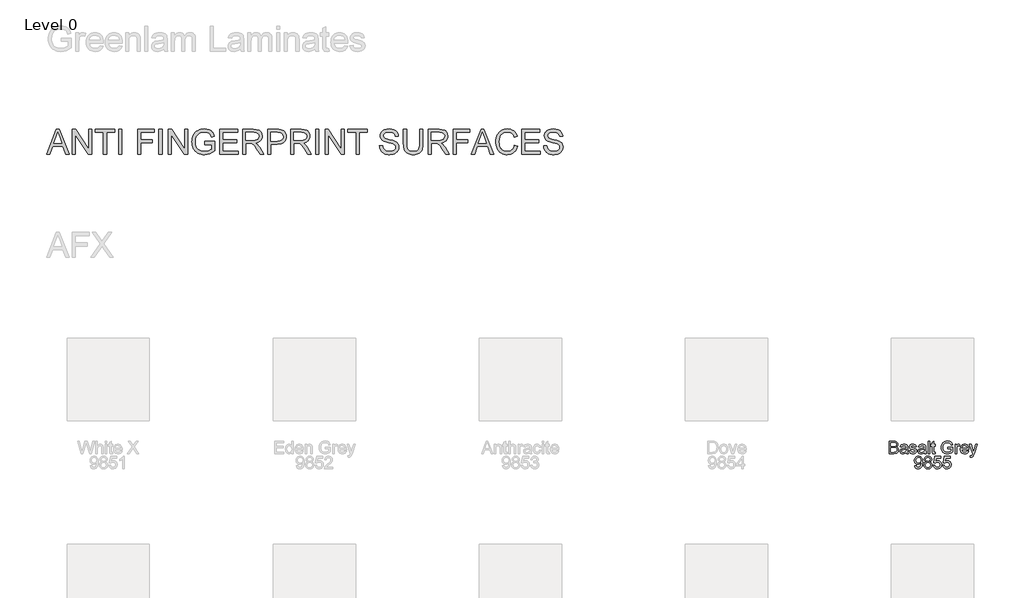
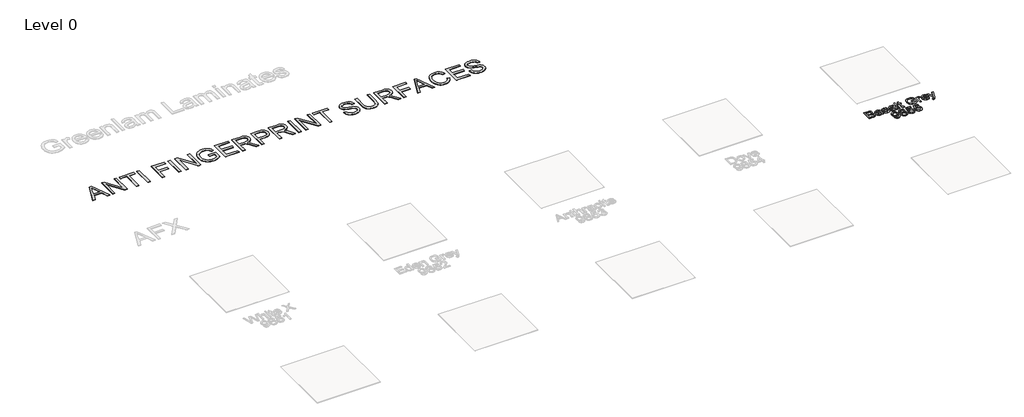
# One storey, part 7 of 8: 2 proxies.
"""IFC4 building model written with IfcOpenShell, lengths in millimetres."""

from ifc_helpers import new_model, si_unit, origin, origin_with_axes, place, context, project, spatial, polyline, outline, extrude, element, save

model = new_model("IFC4")

# Units and contexts
model_context = context("Model", 3, world=origin())
ifc_project = project(units=[si_unit("LENGTHUNIT", "METRE", prefix="MILLI")], contexts=[model_context])

# Site, building, storey
site = spatial("IfcSite", under=ifc_project)
building = spatial("IfcBuilding", under=site)
storey = spatial("IfcBuildingStorey", under=building, Name="Level 0", Elevation=0.0)

# Proxies
placement = place(None, origin())
element("IfcBuildingElementProxy", 1, Name="300mm Arial", ObjectType="300mm Arial", at=placement, inside=storey, context=model_context, shape_type="SweptSolid", body=[
    extrude(outline(polyline([(9492.1962424, -7002.860494), (9492.1962424, -6701.4915635), (9607.196154, -6701.4915635), (9638.8248086, -6703.7080526), (9663.5188875, -6710.3575196), (9682.4464162, -6721.6055116), (9696.7754199, -6737.6175755), (9705.7977258, -6756.4531336), (9708.8051611, -6776.1716086), (9706.2759724, -6794.317388), (9698.6884062, -6811.3779155), (9685.9872804, -6826.3047274), (9668.1174124, -6838.0493601), (9689.4637652, -6849.1961846), (9705.2367058, -6866.1555446), (9714.9763816, -6887.8054), (9718.2229402, -6913.0237108), (9716.0064512, -6934.0389697), (9709.3569841, -6953.5275184), (9699.4333673, -6970.1006023), (9687.394429, -6982.3694669), (9672.651558, -6991.253817), (9654.6161432, -6997.6733578), (9606.3132373, -7002.860494), (9492.1962424, -7002.860494)]), holes=[polyline([(9529.8673587, -6823.9226915), (9598.6612918, -6823.9226915), (9638.8340056, -6820.68533), (9652.8962949, -6815.1027207), (9663.0038527, -6806.7426024), (9669.1014968, -6795.7337336), (9671.1340448, -6782.2048733), (9669.2394525, -6769.071486), (9663.5556757, -6757.630356), (9654.3402317, -6748.7000206), (9641.850638, -6743.0990172), (9593.4373674, -6739.1626798), (9529.8673587, -6739.1626798), (9529.8673587, -6823.9226915)]), polyline([(9529.8673587, -6965.1893777), (9607.1225776, -6965.1893777), (9635.0816093, -6963.7178497), (9658.7364216, -6955.5140812), (9674.4081946, -6938.7754504), (9679.0159166, -6926.9480443), (9680.5518239, -6913.3915928), (9678.7492021, -6897.6462434), (9673.3413368, -6884.1081859), (9663.8959666, -6873.5223815), (9649.9808301, -6866.6337912), (9630.2715522, -6862.8538037), (9603.4437577, -6861.5938078), (9529.8673587, -6861.5938078), (9529.8673587, -6965.1893777)])]), origin_with_axes(), (0.0, 0.0, 1.0), 10.0),
    extrude(outline(polyline([(9906.5785217, -6974.6071568), (9888.5798951, -6990.0398064), (9870.0478396, -7000.1381672), (9850.5592909, -7005.7115794), (9829.6911847, -7007.5693835), (9798.209683, -7003.0996173), (9774.987132, -6989.6903186), (9760.6673254, -6969.3280501), (9755.8940565, -6943.9993748), (9757.6966783, -6928.3827841), (9763.1045436, -6914.2009331), (9771.4462678, -6902.0608273), (9782.0504664, -6892.5694718), (9808.4276054, -6880.2086368), (9841.0219502, -6874.5432541), (9879.5391951, -6868.5835657), (9906.3577925, -6861.5938078), (9906.5785217, -6853.2060983), (9903.9849537, -6836.3938912), (9896.2042495, -6825.3942195), (9878.8034311, -6817.2272392), (9854.5600076, -6814.5049125), (9832.1192059, -6816.3167313), (9816.4474329, -6821.7521878), (9805.7604609, -6831.8045633), (9798.2740623, -6847.4671392), (9760.602946, -6842.7582497), (9767.1420485, -6822.156858), (9776.9001184, -6805.9700502), (9790.7876637, -6793.590821), (9809.7151924, -6784.4121652), (9832.8641669, -6778.7283884), (9859.4160499, -6776.8337961), (9884.8826811, -6778.5076592), (9905.0702055, -6783.5292485), (9920.2913231, -6791.0800264), (9930.8587334, -6800.3414556), (9937.8668854, -6811.7917827), (9942.4102281, -6825.9092543), (9944.249638, -6858.8714811), (9944.249638, -6905.7396473), (9946.1626244, -6971.1858542), (9953.6674171, -7002.860494), (9915.9963008, -7002.860494), (9906.5785217, -6974.6071568)]), holes=[polyline([(9906.5785217, -6899.2649241), (9845.8044161, -6910.8164188), (9813.3940123, -6916.9232599), (9798.7155207, -6926.8560738), (9793.5651728, -6941.3506244), (9796.370273, -6952.5526311), (9804.7855737, -6961.7312869), (9818.6271337, -6967.8565221), (9837.7110122, -6969.8982672), (9857.944522, -6967.64499), (9875.8235869, -6960.8851583), (9890.3181375, -6950.9247533), (9900.3981042, -6939.069756), (9904.8678704, -6926.8560738), (9906.3577925, -6909.933502), (9906.5785217, -6899.2649241)])]), origin_with_axes(), (0.0, 0.0, 1.0), 10.0),
    extrude(outline(polyline([(9981.9207543, -6936.9360404), (10019.5918706, -6932.2271509), (10025.5331649, -6948.3403823), (10037.0294772, -6960.1861825), (10054.1543841, -6967.470246), (10076.9814619, -6969.8982672), (10099.5326282, -6967.6725811), (10115.3883422, -6960.9955229), (10124.7693331, -6951.3202265), (10127.89633, -6940.0998256), (10124.750939, -6930.4981055), (10115.3147658, -6923.1772538), (10076.5400035, -6912.4350996), (10019.8125998, -6894.0042116), (10005.456005, -6884.7427824), (9995.0541416, -6872.4831149), (9988.7357683, -6858.0069584), (9986.6296439, -6842.0960621), (9988.321901, -6827.5003439), (9993.3986726, -6814.0266659), (10001.400106, -6802.2084568), (10011.8663487, -6792.5791455), (10035.8154666, -6781.4323211), (10068.2258704, -6776.8337961), (10092.7452054, -6778.6824032), (10114.063967, -6784.2282242), (10131.207268, -6792.9286334), (10143.200221, -6804.2410048), (10151.1464721, -6819.0022698), (10156.1496672, -6838.0493601), (10118.4785509, -6842.7582497), (10113.7236762, -6830.9032524), (10104.3150941, -6821.972917), (10090.1608344, -6816.3719136), (10071.1689264, -6814.5049125), (10049.537465, -6816.2891401), (10035.1164908, -6821.6418232), (10027.0046928, -6829.3673451), (10024.3007602, -6838.2700893), (10028.7889205, -6849.2329728), (10042.8420127, -6857.5471059), (10075.2892047, -6865.5669334), (10130.5818686, -6883.2988455), (10145.1867838, -6891.7785255), (10156.2600318, -6903.3852025), (10163.2405927, -6918.1556646), (10165.5674463, -6936.1267001), (10162.8359225, -6954.7047408), (10154.6413511, -6972.1791356), (10141.2964317, -6987.1795239), (10123.1138641, -6998.3355454), (10101.151309, -7005.260924), (10076.4664271, -7007.5693835), (10038.4826111, -7003.1180114), (10010.7627028, -6989.763895), (9992.2582384, -6967.654187), (9981.9207543, -6936.9360404)])), origin_with_axes(), (0.0, 0.0, 1.0), 10.0),
    extrude(outline(polyline([(10349.2141383, -6974.6071568), (10331.2155117, -6990.0398064), (10312.6834562, -7000.1381672), (10293.1949075, -7005.7115794), (10272.3268013, -7007.5693835), (10240.8452996, -7003.0996173), (10217.6227486, -6989.6903186), (10203.302942, -6969.3280501), (10198.5296731, -6943.9993748), (10200.3322949, -6928.3827841), (10205.7401602, -6914.2009331), (10214.0818844, -6902.0608273), (10224.6860829, -6892.5694718), (10251.063222, -6880.2086368), (10283.6575668, -6874.5432541), (10322.1748117, -6868.5835657), (10348.9934091, -6861.5938078), (10349.2141383, -6853.2060983), (10346.6205703, -6836.3938912), (10338.8398661, -6825.3942195), (10321.4390477, -6817.2272392), (10297.1956242, -6814.5049125), (10274.7548225, -6816.3167313), (10259.0830495, -6821.7521878), (10248.3960775, -6831.8045633), (10240.9096789, -6847.4671392), (10203.2385626, -6842.7582497), (10209.7776651, -6822.156858), (10219.535735, -6805.9700502), (10233.4232803, -6793.590821), (10252.350809, -6784.4121652), (10275.4997835, -6778.7283884), (10302.0516665, -6776.8337961), (10327.5182977, -6778.5076592), (10347.7058221, -6783.5292485), (10362.9269397, -6791.0800264), (10373.49435, -6800.3414556), (10380.502502, -6811.7917827), (10385.0458446, -6825.9092543), (10386.8852546, -6858.8714811), (10386.8852546, -6905.7396473), (10388.798241, -6971.1858542), (10396.3030337, -7002.860494), (10358.6319174, -7002.860494), (10349.2141383, -6974.6071568)]), holes=[polyline([(10349.2141383, -6899.2649241), (10288.4400327, -6910.8164188), (10256.0296289, -6916.9232599), (10241.3511373, -6926.8560738), (10236.2007894, -6941.3506244), (10239.0058896, -6952.5526311), (10247.4211903, -6961.7312869), (10261.2627503, -6967.8565221), (10280.3466288, -6969.8982672), (10300.5801386, -6967.64499), (10318.4592035, -6960.8851583), (10332.9537541, -6950.9247533), (10343.0337208, -6939.069756), (10347.503487, -6926.8560738), (10348.9934091, -6909.933502), (10349.2141383, -6899.2649241)])]), origin_with_axes(), (0.0, 0.0, 1.0), 10.0),
    extrude(outline(polyline([(10438.6830395, -7002.860494), (10438.6830395, -6701.4915635), (10476.3541558, -6701.4915635), (10476.3541558, -7002.860494), (10438.6830395, -7002.860494)])), origin_with_axes(), (0.0, 0.0, 1.0), 10.0),
    extrude(outline(polyline([(10612.9119525, -6971.4433716), (10617.620842, -7003.96414), (10589.4410812, -7007.5693835), (10571.3596811, -7006.005885), (10557.876806, -7001.3153896), (10548.3486623, -6994.0865084), (10542.1314566, -6984.9078526), (10538.710154, -6969.1441091), (10537.5697198, -6942.1599648), (10537.5697198, -6819.213802), (10509.3163826, -6819.213802), (10509.3163826, -6781.5426857), (10537.5697198, -6781.5426857), (10537.5697198, -6727.758338), (10575.2408362, -6705.6118419), (10575.2408362, -6781.5426857), (10612.9119525, -6781.5426857), (10612.9119525, -6819.213802), (10575.2408362, -6819.213802), (10575.2408362, -6941.0563188), (10577.2273989, -6960.4804881), (10583.6653338, -6967.3598814), (10596.5044155, -6969.8982672), (10612.9119525, -6971.4433716)])), origin_with_axes(), (0.0, 0.0, 1.0), 10.0),
    extrude(outline(polyline([(10914.2808829, -6885.1382555), (10914.2808829, -6847.4671392), (11036.7120109, -6847.4671392), (11036.7120109, -6960.1126061), (11006.9595545, -6980.8059684), (10976.2689991, -6995.6500069), (10944.713921, -7004.5895394), (10912.3678965, -7007.5693835), (10870.1074523, -7002.8329028), (10831.9121042, -6988.6234608), (10800.1822821, -6965.437698), (10777.3184161, -6933.7722553), (10763.4952501, -6895.7884393), (10758.8875281, -6853.6475567), (10763.476856, -6811.2031715), (10777.2448397, -6771.7202364), (10799.6212621, -6738.6016598), (10830.035906, -6715.2503502), (10867.0816229, -6701.399593), (10909.3512642, -6696.782674), (10940.3821105, -6699.4590155), (10968.2859598, -6707.4880401), (10991.7844222, -6720.2903335), (11009.5991079, -6737.2864817), (11022.7784803, -6759.295022), (11032.3710034, -6787.134492), (10997.642943, -6796.9201531), (10989.88983, -6777.0637224), (10980.4628538, -6762.0817281), (10967.9916542, -6750.7877509), (10951.1058706, -6741.9953712), (10930.9735284, -6736.3391855), (10908.762653, -6734.4537903), (10882.762593, -6736.4863383), (10860.5333234, -6742.5839824), (10842.1576178, -6751.9833674), (10827.7182494, -6763.9211381), (10808.3308683, -6792.9470275), (10799.5017004, -6821.3843058), (10796.5586445, -6852.1024524), (10800.0995087, -6888.1272967), (10810.7221013, -6917.7693885), (10828.1045255, -6940.8171955), (10851.9248847, -6957.0591856), (10879.8011429, -6966.6884968), (10909.3512642, -6969.8982672), (10935.4432947, -6967.4794431), (10960.8915317, -6960.2229707), (10982.9920426, -6950.2257775), (10999.0408946, -6939.5847908), (10999.0408946, -6885.1382555), (10914.2808829, -6885.1382555)])), origin_with_axes(), (0.0, 0.0, 1.0), 10.0),
    extrude(outline(polyline([(11093.2186854, -7002.860494), (11093.2186854, -6781.5426857), (11126.1809121, -6781.5426857), (11126.1809121, -6814.2841833), (11138.3578062, -6795.3014723), (11149.578207, -6784.1178596), (11160.8353961, -6778.654812), (11173.1226547, -6776.8337961), (11191.8846365, -6779.7400639), (11210.9409238, -6788.4588672), (11198.3593596, -6822.2304343), (11185.1156078, -6816.4362929), (11171.8718559, -6814.5049125), (11160.6238639, -6816.3627165), (11150.5714884, -6821.9361288), (11142.4504934, -6830.8020848), (11136.9966428, -6842.5375205), (11132.4165119, -6863.5803706), (11130.8898017, -6886.5362071), (11130.8898017, -7002.860494), (11093.2186854, -7002.860494)])), origin_with_axes(), (0.0, 0.0, 1.0), 10.0),
    extrude(outline(polyline([(11389.4372679, -6936.9360404), (11426.3726202, -6941.64493), (11413.064489, -6969.4752029), (11391.8285008, -6990.2789297), (11363.1429023, -7003.2467701), (11327.4859399, -7007.5693835), (11304.1116376, -7005.7046817), (11283.2849182, -7000.1105761), (11265.0057815, -6990.7870668), (11249.2742277, -6977.7341537), (11236.6236856, -6961.3151204), (11227.5875841, -6941.8932503), (11222.1659232, -6919.4685435), (11220.3587029, -6894.0409998), (11222.1843173, -6867.7512327), (11227.6611605, -6844.5792656), (11236.7892325, -6824.5250983), (11249.5685333, -6807.5887309), (11265.2587004, -6794.133447), (11283.1193713, -6784.5225298), (11303.1505459, -6778.7559796), (11325.3522243, -6776.8337961), (11346.8388321, -6778.751381), (11366.2698992, -6784.5041357), (11383.6454257, -6794.0920602), (11398.9654116, -6807.5151545), (11411.4711001, -6824.4147337), (11420.4037348, -6844.4321128), (11425.7633156, -6867.5672917), (11427.5498426, -6893.8202706), (11427.3291134, -6903.9738137), (11258.0298192, -6903.9738137), (11264.5505276, -6932.1719686), (11279.6980687, -6952.902119), (11301.5594563, -6965.6492302), (11328.2217039, -6969.8982672), (11348.2712726, -6967.9300985), (11365.1570562, -6962.0255925), (11378.8790546, -6951.8168672), (11389.4372679, -6936.9360404)]), holes=[polyline([(11258.0298192, -6866.3026974), (11389.8787263, -6866.3026974), (11384.7835606, -6846.4002814), (11374.7955645, -6832.1632482), (11352.8330094, -6818.9194964), (11325.2050715, -6814.5049125), (11299.8120168, -6818.0273826), (11278.8151519, -6828.5947929), (11264.2194338, -6845.0667092), (11258.0298192, -6866.3026974)])]), origin_with_axes(), (0.0, 0.0, 1.0), 10.0),
    extrude(outline(polyline([(11465.2209589, -7087.6205057), (11460.5120693, -7051.3473409), (11479.6419331, -7054.6582789), (11497.5209981, -7050.5012124), (11508.4838815, -7038.9129295), (11518.7845774, -7011.1746271), (11521.7276333, -7002.0511536), (11441.6765112, -6781.5426857), (11481.4077667, -6781.5426857), (11523.8613489, -6904.4152721), (11538.6502051, -6953.5643066), (11553.4390613, -6910.1542312), (11597.069866, -6781.5426857), (11636.5068158, -6781.5426857), (11559.472326, -7008.1579947), (11539.4595455, -7057.3070293), (11529.2140319, -7072.9971964), (11517.607355, -7083.8681093), (11504.1244799, -7090.2140737), (11488.2503718, -7092.3293952), (11465.2209589, -7087.6205057)])), origin_with_axes(), (0.0, 0.0, 1.0), 10.0),
    extrude(outline(polyline([(10111.4152166, -7293.4427149), (10149.0863329, -7288.7338254), (10155.5242679, -7310.1169663), (10166.0089047, -7324.6758963), (10180.2827261, -7333.0360146), (10198.0882147, -7335.8227207), (10214.0634903, -7334.029296), (10228.5856321, -7328.6490218), (10240.6521615, -7320.2705094), (10249.2606002, -7309.4823699), (10261.5846471, -7276.7408723), (10267.0293006, -7233.0364913), (10266.8085714, -7225.6788514), (10253.7579576, -7241.6081418), (10236.679036, -7254.2264942), (10216.8042112, -7262.4486568), (10195.3658879, -7265.1893777), (10177.4707281, -7263.5155146), (10161.0149066, -7258.4939254), (10145.9984234, -7250.12461), (10132.4212786, -7238.4075684), (10121.1709873, -7223.9544045), (10113.135065, -7207.3767221), (10108.3135116, -7188.6745212), (10106.7063271, -7167.8478018), (10108.3916865, -7146.326705), (10113.4477647, -7127.0129003), (10121.8745616, -7109.9063875), (10133.6720773, -7095.0071667), (10148.0079788, -7082.9360387), (10164.0499331, -7074.3138045), (10181.7979401, -7069.1404639), (10201.2519999, -7067.4160171), (10229.3489872, -7071.3523544), (10254.925983, -7083.1613665), (10276.318321, -7102.254442), (10291.8613353, -7128.0429699), (10301.3250996, -7163.6907352), (10304.4796877, -7212.3615232), (10301.3342966, -7263.96617), (10291.8981235, -7303.8537754), (10276.2539416, -7333.8269609), (10254.4845246, -7355.6883485), (10227.5279714, -7369.0424649), (10196.3223811, -7373.4938371), (10164.1143124, -7368.2423216), (10138.4177551, -7352.4877751), (10120.4467196, -7327.2234791), (10111.4152166, -7293.4427149)]), holes=[polyline([(10266.8085714, -7166.964885), (10262.7434754, -7141.4338745), (10250.5481872, -7121.788976), (10231.6206586, -7109.262594), (10207.358841, -7105.0871334), (10182.1957125, -7109.5844908), (10162.0357792, -7123.0765629), (10148.7920273, -7143.7239399), (10144.3774434, -7169.6872117), (10148.552904, -7192.964945), (10161.079286, -7211.4418182), (10180.7425786, -7223.4991506), (10206.3287714, -7227.5182614), (10230.3974509, -7223.4991506), (10249.775635, -7211.4418182), (10262.5503373, -7192.2843633), (10266.8085714, -7166.964885)])]), origin_with_axes(), (0.0, 0.0, 1.0), 10.0),
    extrude(outline(polyline([(10392.3299082, -7202.7965913), (10372.1607778, -7192.8637774), (10358.006518, -7179.3992964), (10349.6463997, -7162.6790597), (10346.8596935, -7142.9789789), (10348.3772068, -7127.6153071), (10352.9297465, -7113.5300252), (10360.5173126, -7100.7231332), (10371.1399052, -7089.1946312), (10384.287088, -7079.6664875), (10399.4484248, -7072.8606706), (10435.81356, -7067.4160171), (10472.3994244, -7072.9894293), (10487.726308, -7079.9561946), (10501.0758259, -7089.709666), (10511.8915566, -7101.4634957), (10519.6170785, -7114.4313361), (10524.2523916, -7128.613187), (10525.797496, -7144.0090485), (10523.0475781, -7163.0745329), (10514.7978243, -7179.509661), (10500.9562643, -7192.8913686), (10481.4309274, -7202.7965913), (10504.6166901, -7214.7435591), (10521.4932767, -7232.3375155), (10531.7847755, -7254.732332), (10535.2152751, -7281.0818799), (10533.5138209, -7299.8714528), (10528.4094582, -7317.0975272), (10519.902187, -7332.7601031), (10507.9920074, -7346.8591806), (10493.3043188, -7358.5118428), (10476.4645204, -7366.8351729), (10457.4726124, -7371.829171), (10436.3285948, -7373.4938371), (10415.1845771, -7371.8222732), (10396.1926691, -7366.8075818), (10379.3528708, -7358.4497627), (10364.6651821, -7346.748816), (10352.7550025, -7332.5508703), (10344.2477314, -7316.702054), (10339.1433687, -7299.2023674), (10337.4419145, -7280.0518103), (10341.0103698, -7252.6813898), (10351.7157359, -7230.1670117), (10369.0061897, -7213.2812282), (10392.3299082, -7202.7965913)]), holes=[polyline([(10384.5308099, -7144.0826249), (10387.869339, -7160.52695), (10397.8849263, -7173.6603373), (10414.2832662, -7182.268776), (10436.7700532, -7185.1382555), (10458.7326083, -7182.2871701), (10474.8826279, -7173.7339137), (10484.8154417, -7161.0419848), (10488.1263797, -7145.774882), (10484.7050771, -7129.9283651), (10474.4411695, -7116.822569), (10458.0704207, -7108.0209923), (10436.3285948, -7105.0871334), (10414.4488131, -7107.9566129), (10398.1056555, -7116.5650516), (10387.9245213, -7129.1834041), (10384.5308099, -7144.0826249)]), polyline([(10375.1130308, -7278.7274351), (10381.4038129, -7307.0911369), (10390.1134191, -7319.2588339), (10403.6606736, -7328.317928), (10419.8842696, -7333.9465226), (10436.6229004, -7335.8227207), (10462.2642754, -7331.8771864), (10481.5045038, -7320.0405832), (10493.534245, -7302.1155329), (10497.5441588, -7279.9046575), (10493.4054863, -7257.316703), (10480.989469, -7238.9961796), (10461.3077822, -7226.8560738), (10435.3721016, -7222.8093718), (10410.0894115, -7226.8008915), (10391.0423212, -7238.7754504), (10379.0953534, -7256.7464859), (10375.1130308, -7278.7274351)])]), origin_with_axes(), (0.0, 0.0, 1.0), 10.0),
    extrude(outline(polyline([(10568.1775018, -7288.7338254), (10605.8486182, -7284.0249358), (10612.7647997, -7306.6404815), (10624.8313291, -7322.8364863), (10641.9930242, -7332.5761621), (10664.1947026, -7335.8227207), (10691.197241, -7331.3069693), (10711.4307508, -7317.7597148), (10724.0674973, -7296.7444558), (10728.2797461, -7269.8246908), (10724.3342117, -7244.4776213), (10712.4976086, -7225.0902402), (10692.6779661, -7212.7845875), (10664.7833138, -7208.6827032), (10646.5087757, -7210.3197781), (10631.7107224, -7215.2310027), (10610.5575077, -7232.2271509), (10572.8863914, -7227.5182614), (10605.8486182, -7072.1249066), (10751.8241938, -7072.1249066), (10751.8241938, -7109.7960229), (10636.3092474, -7109.7960229), (10620.196016, -7192.790201), (10647.1065839, -7176.4562404), (10675.3047388, -7171.0115869), (10693.6505541, -7172.6992456), (10710.5018487, -7177.7622215), (10725.8586228, -7186.2005148), (10739.7208762, -7198.0141254), (10751.1964952, -7212.4810848), (10759.3933659, -7228.8794248), (10764.3114883, -7247.2091452), (10765.9508625, -7267.470246), (10760.0463564, -7305.1413624), (10752.6657239, -7321.9351754), (10742.3328384, -7337.3678251), (10726.6794595, -7353.1729553), (10708.4141184, -7364.4623341), (10687.5368152, -7371.2359613), (10664.0475498, -7373.4938371), (10627.0478181, -7367.6904986), (10611.3691473, -7360.4363255), (10597.5712733, -7350.2804832), (10586.0910557, -7337.7288093), (10577.3653547, -7323.2871418), (10568.1775018, -7288.7338254)])), origin_with_axes(), (0.0, 0.0, 1.0), 10.0),
    extrude(outline(polyline([(10798.9130892, -7288.7338254), (10836.5842055, -7284.0249358), (10843.500387, -7306.6404815), (10855.5669165, -7322.8364863), (10872.7286116, -7332.5761621), (10894.93029, -7335.8227207), (10921.9328284, -7331.3069693), (10942.1663381, -7317.7597148), (10954.8030847, -7296.7444558), (10959.0153335, -7269.8246908), (10955.0697991, -7244.4776213), (10943.2331959, -7225.0902402), (10923.4135534, -7212.7845875), (10895.5189012, -7208.6827032), (10877.244363, -7210.3197781), (10862.4463098, -7215.2310027), (10841.2930951, -7232.2271509), (10803.6219788, -7227.5182614), (10836.5842055, -7072.1249066), (10982.5597812, -7072.1249066), (10982.5597812, -7109.7960229), (10867.0448347, -7109.7960229), (10850.9316033, -7192.790201), (10877.8421713, -7176.4562404), (10906.0403262, -7171.0115869), (10924.3861415, -7172.6992456), (10941.2374361, -7177.7622215), (10956.5942101, -7186.2005148), (10970.4564636, -7198.0141254), (10981.9320826, -7212.4810848), (10990.1289533, -7228.8794248), (10995.0470757, -7247.2091452), (10996.6864498, -7267.470246), (10990.7819438, -7305.1413624), (10983.4013113, -7321.9351754), (10973.0684257, -7337.3678251), (10957.4150468, -7353.1729553), (10939.1497058, -7364.4623341), (10918.2724026, -7371.2359613), (10894.7831372, -7373.4938371), (10857.7834055, -7367.6904986), (10842.1047347, -7360.4363255), (10828.3068606, -7350.2804832), (10816.8266431, -7337.7288093), (10808.1009421, -7323.2871418), (10798.9130892, -7288.7338254)])), origin_with_axes(), (0.0, 0.0, 1.0), 10.0),
])
element("IfcBuildingElementProxy", 2, Name="600mm Arial", ObjectType="600mm Arial", at=placement, inside=storey, context=model_context, shape_type="SweptSolid", body=[
    extrude(outline(polyline([(-10947.6550699, 260.1279527), (-10707.0602451, 862.8658136), (-10642.9016251, 862.8658136), (-10402.3068003, 260.1279527), (-10481.916464, 260.1279527), (-10550.9311263, 448.4835342), (-10799.1778967, 448.4835342), (-10868.0454062, 260.1279527), (-10947.6550699, 260.1279527)]), holes=[polyline([(-10771.5131706, 523.8257668), (-10578.4486996, 523.8257668), (-10632.748082, 672.0086345), (-10674.9809351, 787.523581), (-10712.5048986, 684.9580807), (-10771.5131706, 523.8257668)])]), origin_with_axes(), (0.0, 0.0, 1.0), 10.0),
    extrude(outline(polyline([(-10321.8142197, 260.1279527), (-10321.8142197, 862.8658136), (-10241.1744864, 862.8658136), (-9926.2674985, 385.3549838), (-9926.2674985, 862.8658136), (-9850.9252659, 862.8658136), (-9850.9252659, 260.1279527), (-9931.5649992, 260.1279527), (-10246.4719871, 737.7859352), (-10246.4719871, 260.1279527), (-10321.8142197, 260.1279527)])), origin_with_axes(), (0.0, 0.0, 1.0), 10.0),
    extrude(outline(polyline([(-9568.3918936, 260.1279527), (-9568.3918936, 787.523581), (-9766.1652542, 787.523581), (-9766.1652542, 862.8658136), (-9295.2763004, 862.8658136), (-9295.2763004, 787.523581), (-9493.049661, 787.523581), (-9493.049661, 260.1279527), (-9568.3918936, 260.1279527)])), origin_with_axes(), (0.0, 0.0, 1.0), 10.0),
    extrude(outline(polyline([(-9201.0985096, 260.1279527), (-9201.0985096, 862.8658136), (-9125.756277, 862.8658136), (-9125.756277, 260.1279527), (-9201.0985096, 260.1279527)])), origin_with_axes(), (0.0, 0.0, 1.0), 10.0),
    extrude(outline(polyline([(-8739.6273349, 260.1279527), (-8739.6273349, 862.8658136), (-8334.6628346, 862.8658136), (-8334.6628346, 787.523581), (-8664.2851023, 787.523581), (-8664.2851023, 608.5857785), (-8381.75173, 608.5857785), (-8381.75173, 533.2435459), (-8664.2851023, 533.2435459), (-8664.2851023, 260.1279527), (-8739.6273349, 260.1279527)])), origin_with_axes(), (0.0, 0.0, 1.0), 10.0),
    extrude(outline(polyline([(-8221.6494857, 260.1279527), (-8221.6494857, 862.8658136), (-8146.307253, 862.8658136), (-8146.307253, 260.1279527), (-8221.6494857, 260.1279527)])), origin_with_axes(), (0.0, 0.0, 1.0), 10.0),
    extrude(outline(polyline([(-7995.6227878, 260.1279527), (-7995.6227878, 862.8658136), (-7914.9830545, 862.8658136), (-7600.0760666, 385.3549838), (-7600.0760666, 862.8658136), (-7524.733834, 862.8658136), (-7524.733834, 260.1279527), (-7605.3735673, 260.1279527), (-7920.2805552, 737.7859352), (-7920.2805552, 260.1279527), (-7995.6227878, 260.1279527)])), origin_with_axes(), (0.0, 0.0, 1.0), 10.0),
    extrude(outline(polyline([(-7110.3515546, 495.5724296), (-7110.3515546, 570.9146622), (-6865.4892986, 570.9146622), (-6865.4892986, 345.6237284), (-6924.9942114, 304.2370039), (-6986.3753223, 274.5489269), (-7049.4854785, 256.6698619), (-7114.1775274, 250.7101736), (-7157.4542456, 253.0784139), (-7198.6984158, 260.183135), (-7237.9100379, 272.0243367), (-7275.0891121, 288.6020191), (-7309.0354232, 309.6678618), (-7338.5487562, 334.9735446), (-7363.6291113, 364.5190673), (-7384.2764882, 398.3044301), (-7400.4035152, 435.2489794), (-7411.9228202, 474.2720621), (-7418.8344032, 515.373678), (-7421.1382642, 558.5538272), (-7418.8436002, 601.7385749), (-7411.9596084, 643.4425975), (-7400.4862887, 683.6658952), (-7384.423641, 722.4084678), (-7364.0567741, 757.9688612), (-7339.6707963, 788.645621), (-7311.2657078, 814.4387474), (-7278.8415084, 835.3482403), (-7243.1017726, 851.507457), (-7204.7500746, 863.0497546), (-7163.7864144, 869.9751331), (-7120.2107921, 872.2835926), (-7058.1490995, 866.9309096), (-7002.3414008, 850.8728605), (-6977.4219942, 839.1190308), (-6955.344476, 825.2682737), (-6936.1088461, 809.3205892), (-6919.7151047, 791.2759773), (-6893.3563598, 747.2588966), (-6874.1713137, 691.5799566), (-6943.6274344, 672.0086345), (-6959.1336605, 711.7214959), (-6977.9876128, 741.6854844), (-7002.930012, 764.2734389), (-7036.7015792, 781.8581982), (-7076.9662636, 793.1705696), (-7121.3880145, 796.94136), (-7173.3881345, 792.876264), (-7217.8466736, 780.6809758), (-7254.5980849, 761.8822059), (-7283.4768216, 738.0066644), (-7305.6417118, 710.2867561), (-7322.2515839, 679.9548856), (-7339.9099196, 623.0803291), (-7345.7960315, 561.6440359), (-7344.0255994, 524.0235034), (-7338.7143031, 489.5943472), (-7329.8621426, 458.3565672), (-7317.4691179, 430.3101636), (-7301.6961774, 405.5609024), (-7282.7042694, 384.2145496), (-7260.4933939, 366.2711053), (-7235.063551, 351.7305695), (-7207.6057586, 340.496373), (-7179.3110346, 332.471947), (-7150.1793791, 327.6572914), (-7120.2107921, 326.0524062), (-7068.0267311, 330.8900544), (-7017.1302571, 345.4029992), (-6972.9292353, 365.3973856), (-6940.8315313, 386.679359), (-6940.8315313, 495.5724296), (-7110.3515546, 495.5724296)])), origin_with_axes(), (0.0, 0.0, 1.0), 10.0),
    extrude(outline(polyline([(-6743.0581706, 260.1279527), (-6743.0581706, 862.8658136), (-6309.8403331, 862.8658136), (-6309.8403331, 787.523581), (-6667.715938, 787.523581), (-6667.715938, 608.5857785), (-6328.6758913, 608.5857785), (-6328.6758913, 533.2435459), (-6667.715938, 533.2435459), (-6667.715938, 335.4701853), (-6300.422554, 335.4701853), (-6300.422554, 260.1279527), (-6743.0581706, 260.1279527)])), origin_with_axes(), (0.0, 0.0, 1.0), 10.0),
    extrude(outline(polyline([(-6187.4092051, 260.1279527), (-6187.4092051, 862.8658136), (-5927.6845165, 862.8658136), (-5857.878908, 858.8007175), (-5807.0927985, 846.6054294), (-5787.4938852, 836.9117388), (-5769.9735052, 824.0910513), (-5754.5316585, 808.1433668), (-5741.168345, 789.0686853), (-5730.384804, 767.892478), (-5722.6822747, 745.6402158), (-5718.0607572, 722.3118988), (-5716.5202513, 697.9075269), (-5719.0724326, 666.950257), (-5726.7289767, 638.5313729), (-5739.4898834, 612.6508745), (-5757.3551528, 589.308762), (-5780.5547111, 569.2499962), (-5809.3184846, 553.2195382), (-5843.6464733, 541.2173881), (-5883.5386771, 533.2435459), (-5858.7066424, 517.0199499), (-5840.7172129, 501.0170831), (-5809.8519135, 464.4128246), (-5779.6488017, 423.4675585), (-5679.1434406, 260.1279527), (-5766.6993554, 260.1279527), (-5845.1317968, 385.0606782), (-5901.7856241, 467.7605507), (-5922.8468683, 491.8752155), (-5941.590456, 506.8296186), (-5977.4221623, 521.1770164), (-6021.1265433, 523.8257668), (-6112.0669725, 523.8257668), (-6112.0669725, 260.1279527), (-6187.4092051, 260.1279527)]), holes=[polyline([(-6112.0669725, 599.1679994), (-5943.4298659, 599.1679994), (-5894.9982013, 601.8351439), (-5857.4190555, 609.8365773), (-5829.12893, 623.7057285), (-5808.5643265, 643.9760264), (-5796.0379446, 668.4953614), (-5791.8624839, 695.1116238), (-5793.8536452, 714.3794433), (-5799.8271291, 731.8630351), (-5809.7829356, 747.5623992), (-5823.7210647, 761.4775357), (-5841.9634131, 772.8726805), (-5864.8318777, 781.0120696), (-5892.3264583, 785.8957031), (-5924.447155, 787.523581), (-6112.0669725, 787.523581), (-6112.0669725, 599.1679994)])]), origin_with_axes(), (0.0, 0.0, 1.0), 10.0),
    extrude(outline(polyline([(-5584.6713442, 260.1279527), (-5584.6713442, 862.8658136), (-5361.2933968, 862.8658136), (-5309.2748826, 861.4310738), (-5271.2358843, 857.1268544), (-5231.0815646, 846.4030943), (-5198.0273673, 828.9470936), (-5171.411105, 803.9679061), (-5150.5705899, 770.6745856), (-5137.1061089, 731.4031826), (-5132.6179486, 688.4897479), (-5135.6483765, 651.4900162), (-5144.7396603, 617.4517346), (-5159.8918, 586.374903), (-5181.1047955, 558.2595216), (-5210.227254, 534.9541972), (-5249.1077823, 518.3075369), (-5297.7463806, 508.3195407), (-5356.1430488, 504.9902087), (-5509.3291116, 504.9902087), (-5509.3291116, 260.1279527), (-5584.6713442, 260.1279527)]), holes=[polyline([(-5509.3291116, 580.3324413), (-5351.7284649, 580.3324413), (-5315.4920884, 582.0614867), (-5284.9210946, 587.2486228), (-5260.0154835, 595.8938497), (-5240.7752551, 607.9971673), (-5226.4186603, 623.236679), (-5216.1639497, 641.2904879), (-5210.0111233, 662.1585941), (-5207.9601812, 685.8409975), (-5212.7978294, 719.686141), (-5227.3107741, 748.2337839), (-5249.6963935, 769.7180924), (-5278.1520659, 782.373233), (-5307.2147435, 786.235994), (-5353.4942985, 787.523581), (-5509.3291116, 787.523581), (-5509.3291116, 580.3324413)])]), origin_with_axes(), (0.0, 0.0, 1.0), 10.0),
    extrude(outline(polyline([(-5029.0223787, 260.1279527), (-5029.0223787, 862.8658136), (-4769.2976901, 862.8658136), (-4699.4920815, 858.8007175), (-4648.7059721, 846.6054294), (-4629.1070588, 836.9117388), (-4611.5866788, 824.0910513), (-4596.144832, 808.1433668), (-4582.7815186, 789.0686853), (-4571.9979776, 767.892478), (-4564.2954483, 745.6402158), (-4559.6739307, 722.3118988), (-4558.1334249, 697.9075269), (-4560.6856062, 666.950257), (-4568.3421503, 638.5313729), (-4581.103057, 612.6508745), (-4598.9683264, 589.308762), (-4622.1678847, 569.2499962), (-4650.9316582, 553.2195382), (-4685.2596469, 541.2173881), (-4725.1518507, 533.2435459), (-4700.319816, 517.0199499), (-4682.3303865, 501.0170831), (-4651.4650871, 464.4128246), (-4621.2619753, 423.4675585), (-4520.7566142, 260.1279527), (-4608.312529, 260.1279527), (-4686.7449704, 385.0606782), (-4743.3987977, 467.7605507), (-4764.4600419, 491.8752155), (-4783.2036295, 506.8296186), (-4819.0353359, 521.1770164), (-4862.7397169, 523.8257668), (-4953.6801461, 523.8257668), (-4953.6801461, 260.1279527), (-5029.0223787, 260.1279527)]), holes=[polyline([(-4953.6801461, 599.1679994), (-4785.0430395, 599.1679994), (-4736.6113749, 601.8351439), (-4699.032229, 609.8365773), (-4670.7421036, 623.7057285), (-4650.1775001, 643.9760264), (-4637.6511181, 668.4953614), (-4633.4756575, 695.1116238), (-4635.4668188, 714.3794433), (-4641.4403027, 731.8630351), (-4651.3961092, 747.5623992), (-4665.3342383, 761.4775357), (-4683.5765867, 772.8726805), (-4706.4450512, 781.0120696), (-4733.9396319, 785.8957031), (-4766.0603286, 787.523581), (-4953.6801461, 787.523581), (-4953.6801461, 599.1679994)])]), origin_with_axes(), (0.0, 0.0, 1.0), 10.0),
    extrude(outline(polyline([(-4416.8667387, 260.1279527), (-4416.8667387, 862.8658136), (-4341.5245061, 862.8658136), (-4341.5245061, 260.1279527), (-4416.8667387, 260.1279527)])), origin_with_axes(), (0.0, 0.0, 1.0), 10.0),
    extrude(outline(polyline([(-4190.8400409, 260.1279527), (-4190.8400409, 862.8658136), (-4110.2003076, 862.8658136), (-3795.2933197, 385.3549838), (-3795.2933197, 862.8658136), (-3719.9510871, 862.8658136), (-3719.9510871, 260.1279527), (-3800.5908204, 260.1279527), (-4115.4978083, 737.7859352), (-4115.4978083, 260.1279527), (-4190.8400409, 260.1279527)])), origin_with_axes(), (0.0, 0.0, 1.0), 10.0),
    extrude(outline(polyline([(-3437.4177148, 260.1279527), (-3437.4177148, 787.523581), (-3635.1910754, 787.523581), (-3635.1910754, 862.8658136), (-3164.3021216, 862.8658136), (-3164.3021216, 787.523581), (-3362.0754822, 787.523581), (-3362.0754822, 260.1279527), (-3437.4177148, 260.1279527)])), origin_with_axes(), (0.0, 0.0, 1.0), 10.0),
    extrude(outline(polyline([(-2872.3509702, 467.3190924), (-2797.0087376, 467.3190924), (-2788.3635107, 425.5093036), (-2772.7285259, 391.9032833), (-2748.3379496, 365.2318387), (-2713.4259483, 344.2257768), (-2670.7516368, 330.5957488), (-2623.0741303, 326.0524062), (-2581.0987946, 329.4921029), (-2544.3473833, 339.8111928), (-2514.5673358, 356.1451534), (-2493.5060916, 377.6294619), (-2480.9797096, 402.2959497), (-2476.804249, 428.1764481), (-2479.9312459, 453.3947588), (-2489.3122368, 475.1917671), (-2508.3685242, 493.7882019), (-2540.5214105, 509.4047926), (-2650.2238215, 538.1731646), (-2722.2367221, 557.2110579), (-2768.313942, 575.3292461), (-2805.8195114, 600.6763156), (-2832.3989855, 631.3944622), (-2848.2363054, 666.8214983), (-2853.515412, 706.2952364), (-2851.8829357, 728.7314396), (-2846.9855066, 750.4226817), (-2838.8231249, 771.3689628), (-2827.3957904, 791.5702829), (-2812.8322619, 810.203506), (-2795.2612981, 826.445496), (-2774.682899, 840.2962532), (-2751.0970646, 851.7557773), (-2698.0852691, 867.1516388), (-2639.4080908, 872.2835926), (-2575.8380821, 866.9125155), (-2520.2143244, 850.7992841), (-2495.8789304, 838.797134), (-2474.5233806, 824.2749923), (-2456.147675, 807.2328588), (-2440.7518135, 787.6707338), (-2428.4553578, 766.1588341), (-2419.3778695, 743.2673769), (-2413.5193488, 718.9963623), (-2410.8797954, 693.3457902), (-2486.2220281, 693.3457902), (-2491.2620114, 717.3868786), (-2500.0543911, 738.30097), (-2512.5991671, 756.0880645), (-2528.8963395, 770.748162), (-2549.2494109, 782.2076861), (-2573.9618839, 790.3930605), (-2603.0337586, 795.3042852), (-2636.4650349, 796.94136), (-2670.963169, 795.3226793), (-2700.4397138, 790.4666369), (-2724.8946695, 782.373233), (-2744.3280359, 771.0424676), (-2759.1352862, 757.4216367), (-2769.7118935, 742.4580365), (-2776.057858, 726.1516671), (-2778.1731794, 708.5025284), (-2776.6740603, 693.318199), (-2772.1767029, 679.5502154), (-2764.6811073, 667.1985774), (-2754.1872733, 656.2632851), (-2737.6693718, 645.9074069), (-2711.6601147, 635.4411642), (-2631.1675342, 614.1775848), (-2548.0997796, 593.9808633), (-2497.8470991, 576.3593157), (-2454.8968762, 549.0256835), (-2438.2916026, 532.9584373), (-2424.9328877, 515.2909045), (-2414.6643815, 496.1150555), (-2407.3297342, 475.5228608), (-2401.4620164, 430.0894344), (-2403.149675, 406.5219941), (-2408.212651, 383.6443326), (-2416.6509442, 361.4564497), (-2428.4645548, 339.9583456), (-2443.4465491, 319.9823533), (-2461.3899934, 302.3608057), (-2482.2948878, 287.0937029), (-2506.1612322, 274.1810449), (-2532.2946494, 263.9125387), (-2560.0007622, 256.5778914), (-2620.1310743, 250.7101736), (-2658.6713118, 252.2920662), (-2693.9465966, 257.0377439), (-2725.9569287, 264.9472068), (-2754.7023081, 276.0204549), (-2780.3574788, 290.2758822), (-2803.0971846, 307.7318828), (-2822.9214256, 328.3884569), (-2839.8302018, 352.2456043), (-2853.4510327, 378.5307728), (-2863.4114377, 406.4714104), (-2869.7114169, 436.0675169), (-2872.3509702, 467.3190924)])), origin_with_axes(), (0.0, 0.0, 1.0), 10.0),
    extrude(outline(polyline([(-1892.9019462, 862.8658136), (-1817.5597136, 862.8658136), (-1817.5597136, 515.1437517), (-1822.6732734, 433.7130721), (-1829.065223, 400.0196799), (-1838.0139526, 371.007586), (-1850.2920141, 345.5777431), (-1866.67196, 322.6311037), (-1887.1537901, 302.1676677), (-1911.7375044, 284.1874352), (-1940.4506941, 269.5411332), (-1973.3209504, 259.079489), (-2010.3482732, 252.8025024), (-2051.5326626, 250.7101736), (-2091.7007779, 252.5311895), (-2128.0337235, 257.9942371), (-2160.5314992, 267.0993165), (-2189.1941052, 279.8464276), (-2214.0261398, 296.047031), (-2235.0322017, 315.512587), (-2252.2122909, 338.2430958), (-2265.5664073, 364.2385573), (-2275.5773961, 394.3910853), (-2282.7281024, 429.5927937), (-2287.0185262, 469.8436825), (-2288.4486674, 515.1437517), (-2288.4486674, 862.8658136), (-2213.1064348, 862.8658136), (-2213.1064348, 517.7925021), (-2209.3908267, 450.0838209), (-2198.2440022, 402.9397432), (-2189.4792137, 385.5619175), (-2178.0472807, 370.2902161), (-2163.9482032, 357.1246392), (-2147.1819813, 346.0651867), (-2106.935691, 331.0556013), (-2058.5959969, 326.0524062), (-2017.0713167, 328.5264126), (-1981.9661773, 335.9484319), (-1953.2805787, 348.318464), (-1931.0145209, 365.6365089), (-1914.3402695, 389.990297), (-1902.4300899, 423.4675585), (-1895.2839822, 466.0682936), (-1892.9019462, 517.7925021), (-1892.9019462, 862.8658136)])), origin_with_axes(), (0.0, 0.0, 1.0), 10.0),
    extrude(outline(polyline([(-1685.7108066, 260.1279527), (-1685.7108066, 862.8658136), (-1425.986118, 862.8658136), (-1356.1805094, 858.8007175), (-1305.3943999, 846.6054294), (-1285.7954866, 836.9117388), (-1268.2751066, 824.0910513), (-1252.8332599, 808.1433668), (-1239.4699464, 789.0686853), (-1228.6864054, 767.892478), (-1220.9838761, 745.6402158), (-1216.3623586, 722.3118988), (-1214.8218527, 697.9075269), (-1217.3740341, 666.950257), (-1225.0305781, 638.5313729), (-1237.7914848, 612.6508745), (-1255.6567542, 589.308762), (-1278.8563125, 569.2499962), (-1307.620086, 553.2195382), (-1341.9480747, 541.2173881), (-1381.8402785, 533.2435459), (-1357.0082439, 517.0199499), (-1339.0188143, 501.0170831), (-1308.1535149, 464.4128246), (-1277.9504031, 423.4675585), (-1177.445042, 260.1279527), (-1265.0009569, 260.1279527), (-1343.4333982, 385.0606782), (-1400.0872255, 467.7605507), (-1421.1484697, 491.8752155), (-1439.8920574, 506.8296186), (-1475.7237637, 521.1770164), (-1519.4281447, 523.8257668), (-1610.3685739, 523.8257668), (-1610.3685739, 260.1279527), (-1685.7108066, 260.1279527)]), holes=[polyline([(-1610.3685739, 599.1679994), (-1441.7314674, 599.1679994), (-1393.2998027, 601.8351439), (-1355.7206569, 609.8365773), (-1327.4305314, 623.7057285), (-1306.8659279, 643.9760264), (-1294.339546, 668.4953614), (-1290.1640853, 695.1116238), (-1292.1552466, 714.3794433), (-1298.1287305, 731.8630351), (-1308.084537, 747.5623992), (-1322.0226661, 761.4775357), (-1340.2650146, 772.8726805), (-1363.1334791, 781.0120696), (-1390.6280597, 785.8957031), (-1422.7487564, 787.523581), (-1610.3685739, 787.523581), (-1610.3685739, 599.1679994)])]), origin_with_axes(), (0.0, 0.0, 1.0), 10.0),
    extrude(outline(polyline([(-1082.9729457, 260.1279527), (-1082.9729457, 862.8658136), (-678.0084454, 862.8658136), (-678.0084454, 787.523581), (-1007.630713, 787.523581), (-1007.630713, 608.5857785), (-725.0973407, 608.5857785), (-725.0973407, 533.2435459), (-1007.630713, 533.2435459), (-1007.630713, 260.1279527), (-1082.9729457, 260.1279527)])), origin_with_axes(), (0.0, 0.0, 1.0), 10.0),
    extrude(outline(polyline([(-644.6047602, 260.1279527), (-404.0099354, 862.8658136), (-339.8513154, 862.8658136), (-99.2564906, 260.1279527), (-178.8661543, 260.1279527), (-247.8808166, 448.4835342), (-496.1275869, 448.4835342), (-564.9950964, 260.1279527), (-644.6047602, 260.1279527)]), holes=[polyline([(-468.4628609, 523.8257668), (-275.3983898, 523.8257668), (-329.6977723, 672.0086345), (-371.9306254, 787.523581), (-409.4545889, 684.9580807), (-468.4628609, 523.8257668)])]), origin_with_axes(), (0.0, 0.0, 1.0), 10.0),
    extrude(outline(polyline([(405.0361484, 474.3824267), (480.378381, 454.9582573), (465.4699632, 408.1038867), (445.6135325, 367.1632192), (420.809089, 332.1362547), (391.0566326, 303.0229933), (357.0275481, 280.1361347), (319.39322, 263.7883785), (278.1536483, 253.9797248), (233.3088331, 250.7101736), (187.3649704, 253.18418), (145.9184651, 260.6061993), (108.9693172, 272.9762314), (76.5175267, 290.2942763), (48.1170367, 312.3028166), (23.3217902, 338.744335), (2.1317873, 369.6188315), (-15.4529721, 404.926306), (-29.2623424, 443.1400482), (-39.1261784, 482.733348), (-45.04448, 523.7062052), (-47.0172472, 566.0586199), (-44.7869626, 611.5012433), (-38.0961089, 653.9456285), (-26.9446859, 693.3917754), (-11.3326937, 729.8396841), (8.3903798, 762.6869478), (31.8750466, 791.3311596), (59.1213069, 815.7723197), (90.1291606, 836.0104279), (123.8455454, 851.8799375), (159.2173993, 863.2153015), (196.2447221, 870.0165199), (234.9275139, 872.2835926), (278.0202911, 869.3497337), (317.5354159, 860.548157), (353.4728883, 845.8788624), (385.8327083, 825.3418501), (414.081447, 799.4797458), (437.6856755, 768.8351756), (456.6453938, 733.4081395), (470.960602, 693.1986374), (395.6183694, 675.245996), (383.754175, 704.8742922), (369.4987477, 730.189172), (352.8520874, 751.1906354), (333.8141942, 767.8786824), (312.2747034, 780.5936039), (288.1232504, 789.6756906), (261.3598352, 795.1249427), (231.9844579, 796.94136), (198.1852996, 794.9272061), (167.274015, 788.8847443), (139.250604, 778.8139747), (114.1150667, 764.7148973), (92.1847012, 747.2221084), (73.7768059, 726.9702046), (58.8913807, 703.9591858), (47.5284255, 678.189052), (33.1258454, 623.0435409), (28.3249854, 566.2057727), (34.0087622, 496.6024992), (41.1134832, 465.3325296), (51.0600927, 436.4170048), (64.0095389, 410.4307403), (80.1227703, 387.9485519), (99.3997868, 368.9704395), (121.8405885, 353.496403), (146.355325, 341.4896544), (171.8541458, 332.9134054), (198.3370509, 327.767656), (225.8040404, 326.0524062), (258.5593335, 328.3884569), (288.6934675, 335.3966089), (316.2064422, 347.0768622), (341.0982577, 363.4292169), (362.7803028, 384.3800965), (380.6639663, 409.8559247), (394.7492481, 439.8567014), (405.0361484, 474.3824267)])), origin_with_axes(), (0.0, 0.0, 1.0), 10.0),
    extrude(outline(polyline([(583.9739509, 260.1279527), (583.9739509, 862.8658136), (1017.1917884, 862.8658136), (1017.1917884, 787.523581), (659.3161835, 787.523581), (659.3161835, 608.5857785), (998.3562303, 608.5857785), (998.3562303, 533.2435459), (659.3161835, 533.2435459), (659.3161835, 335.4701853), (1026.6095675, 335.4701853), (1026.6095675, 260.1279527), (583.9739509, 260.1279527)])), origin_with_axes(), (0.0, 0.0, 1.0), 10.0),
    extrude(outline(polyline([(1111.3695792, 467.3190924), (1186.7118118, 467.3190924), (1195.3570387, 425.5093036), (1210.9920235, 391.9032833), (1235.3825998, 365.2318387), (1270.2946011, 344.2257768), (1312.9689125, 330.5957488), (1360.6464191, 326.0524062), (1402.6217548, 329.4921029), (1439.3731661, 339.8111928), (1469.1532136, 356.1451534), (1490.2144578, 377.6294619), (1502.7408397, 402.2959497), (1506.9163004, 428.1764481), (1503.7893034, 453.3947588), (1494.4083126, 475.1917671), (1475.3520252, 493.7882019), (1443.1991388, 509.4047926), (1333.4967279, 538.1731646), (1261.4838273, 557.2110579), (1215.4066074, 575.3292461), (1177.901038, 600.6763156), (1151.3215639, 631.3944622), (1135.484244, 666.8214983), (1130.2051373, 706.2952364), (1131.8376137, 728.7314396), (1136.7350427, 750.4226817), (1144.8974245, 771.3689628), (1156.324759, 791.5702829), (1170.8882875, 810.203506), (1188.4592513, 826.445496), (1209.0376504, 840.2962532), (1232.6234848, 851.7557773), (1285.6352803, 867.1516388), (1344.3124585, 872.2835926), (1407.8824673, 866.9125155), (1463.506225, 850.7992841), (1487.8416189, 838.797134), (1509.1971688, 824.2749923), (1527.5728744, 807.2328588), (1542.9687359, 787.6707338), (1555.2651916, 766.1588341), (1564.3426798, 743.2673769), (1570.2012006, 718.9963623), (1572.8407539, 693.3457902), (1497.4985213, 693.3457902), (1492.458538, 717.3868786), (1483.6661583, 738.30097), (1471.1213823, 756.0880645), (1454.8242099, 770.748162), (1434.4711385, 782.2076861), (1409.7586655, 790.3930605), (1380.6867908, 795.3042852), (1347.2555145, 796.94136), (1312.7573804, 795.3226793), (1283.2808355, 790.4666369), (1258.8258799, 782.373233), (1239.3925135, 771.0424676), (1224.5852632, 757.4216367), (1214.0086558, 742.4580365), (1207.6626914, 726.1516671), (1205.5473699, 708.5025284), (1207.0464891, 693.318199), (1211.5438465, 679.5502154), (1219.0394421, 667.1985774), (1229.533276, 656.2632851), (1246.0511776, 645.9074069), (1272.0604347, 635.4411642), (1352.5530152, 614.1775848), (1435.6207697, 593.9808633), (1485.8734503, 576.3593157), (1528.8236732, 549.0256835), (1545.4289468, 532.9584373), (1558.7876617, 515.2909045), (1569.0561679, 496.1150555), (1576.3908152, 475.5228608), (1582.258533, 430.0894344), (1580.5708743, 406.5219941), (1575.5078984, 383.6443326), (1567.0696051, 361.4564497), (1555.2559946, 339.9583456), (1540.2740003, 319.9823533), (1522.330556, 302.3608057), (1501.4256616, 287.0937029), (1477.5593172, 274.1810449), (1451.4258999, 263.9125387), (1423.7197872, 256.5778914), (1363.5894751, 250.7101736), (1325.0492375, 252.2920662), (1289.7739527, 257.0377439), (1257.7636206, 264.9472068), (1229.0182412, 276.0204549), (1203.3630706, 290.2758822), (1180.6233648, 307.7318828), (1160.7991238, 328.3884569), (1143.8903476, 352.2456043), (1130.2695167, 378.5307728), (1120.3091117, 406.4714104), (1114.0091325, 436.0675169), (1111.3695792, 467.3190924)])), origin_with_axes(), (0.0, 0.0, 1.0), 10.0),
])

save(model, "model.ifc")
